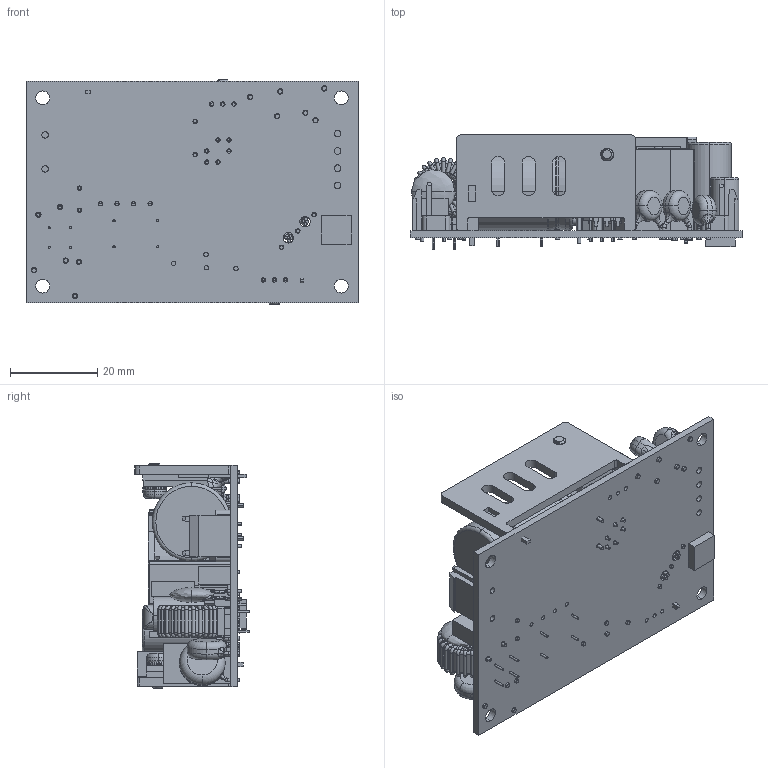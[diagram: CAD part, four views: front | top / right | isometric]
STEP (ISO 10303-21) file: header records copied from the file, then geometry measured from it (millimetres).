
FILE_DESCRIPTION (( 'STEP AP203' ), '1' );
FILE_NAME ('CFM70SXXX 2023.02.08.STEP', '2023-11-24T06:28:01', ( 'cincon' ), ( '' ), 'SwSTEP 2.0', 'SolidWorks 2020', '' );
FILE_SCHEMA (( 'CONFIG_CONTROL_DESIGN' ));
Products named in the file (1): CFM70SXXX 2023.02.08
Bounding box: 76.2 x 26.2 x 51.56 mm (x, y, z)
Surface area: 33697.3 mm2 (no closed solid volume)
Topology: 0 solids, 22 shells, 2140 faces, 6064 edges, 3905 vertices
Faces by surface type: cylinder 900, plane 753, torus 355, bspline 109, cone 23
Entity records: 84090 total; most frequent: CARTESIAN_POINT 28443, ORIENTED_EDGE 12096, DIRECTION 11621, EDGE_CURVE 6052, AXIS2_PLACEMENT_3D 4546, VERTEX_POINT 3905, VECTOR 2529, LINE 2529
